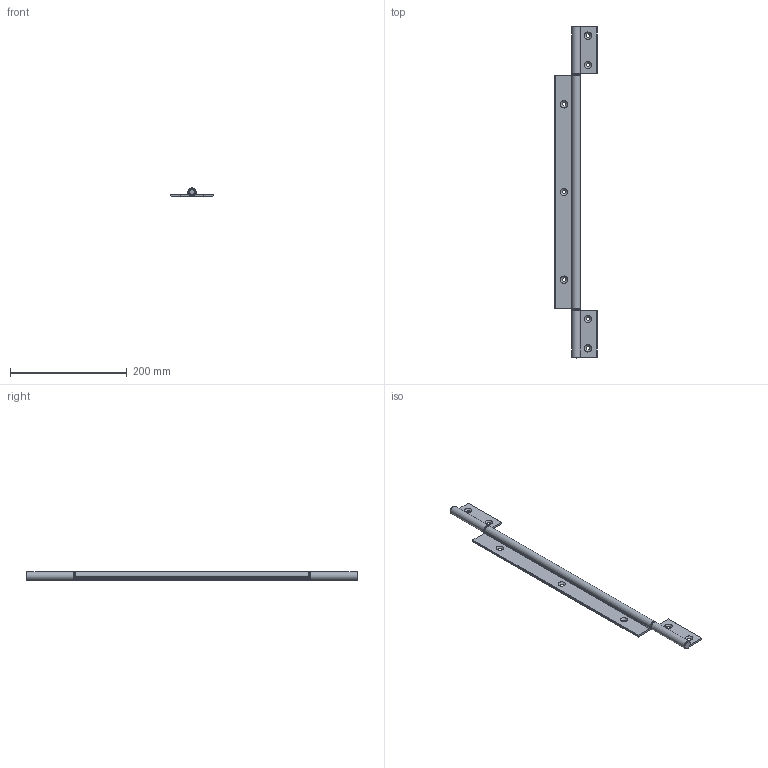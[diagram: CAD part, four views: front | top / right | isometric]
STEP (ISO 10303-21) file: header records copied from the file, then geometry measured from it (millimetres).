
FILE_DESCRIPTION( ( 'STEP AP203' ), '1' );
FILE_NAME( 'C:/Temp/Ganter_Step_05_03_2020/data/3_3/gn2295/Hinge GN 2295-72-565-A-C-EL.stp', '2020-03-12T12:07:54', ( 'License CC BY-ND 4.0' ), ( 'CADENAS' ), ' ', 'PARTsolutions', ' ' );
FILE_SCHEMA( ( 'CONFIG_CONTROL_DESIGN' ) );
Length unit declared in the file: millimetre
Products named in the file (4): Hinge GN 2295-72-565-A-C-EL; _Hinge GN 2295-72-565-A-C-EL-1; _Hinge GN 2295-72-565-A-C-EL-2; _Hinge GN 2295-72-565-A-C-EL-3
Assembly tree (3 placements, depth 2):
  Hinge GN 2295-72-565-A-C-EL
    _Hinge GN 2295-72-565-A-C-EL-1
    _Hinge GN 2295-72-565-A-C-EL-2
    _Hinge GN 2295-72-565-A-C-EL-3
Bounding box: 72 x 568 x 14 mm (x, y, z)
Volume: 148358.6 mm3; surface area: 68916.1 mm2
Topology: 3 solids, 3 shells, 91 faces, 238 edges, 156 vertices
Faces by surface type: plane 51, cylinder 31, cone 7, torus 2
Full cylindrical faces by diameter (mm): 6 x2, 6.6 x7, 8 x4, 13.9 x6
Entity records: 2795 total; most frequent: DIRECTION 498, CARTESIAN_POINT 445, ORIENTED_EDGE 404, EDGE_CURVE 202, AXIS2_PLACEMENT_3D 201, VERTEX_POINT 148, EDGE_LOOP 140, FACE_OUTER_BOUND 112
